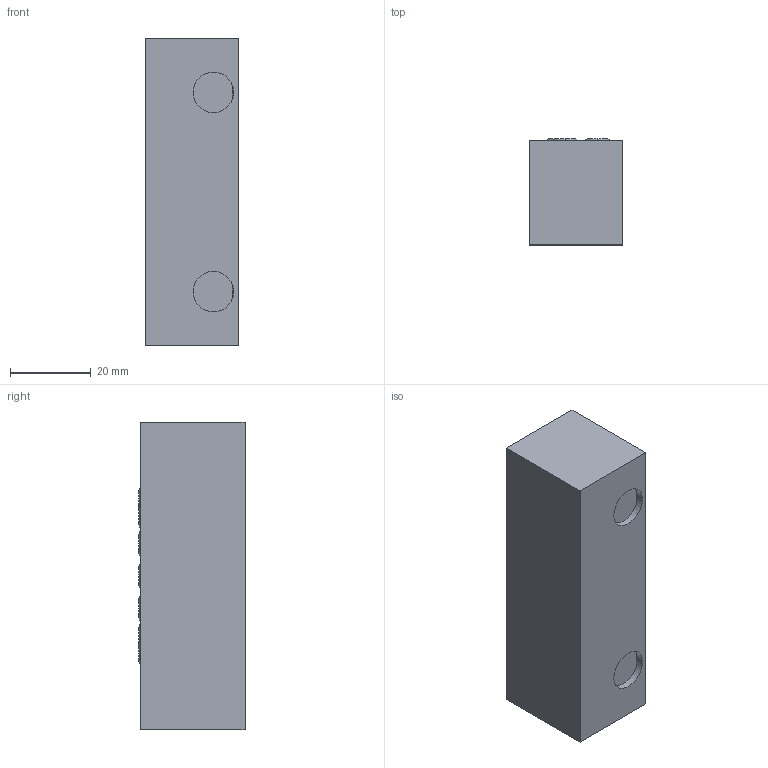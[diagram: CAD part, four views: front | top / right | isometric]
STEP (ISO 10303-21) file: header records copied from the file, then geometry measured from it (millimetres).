
FILE_DESCRIPTION((''),'2;1');
FILE_NAME('0641514_ASM','2023-07-20T14:06:12',('pietro.masciave'),(''),'CREO PARAMETRIC BY PTC INC, 2022281','CREO PARAMETRIC BY PTC INC, 2022281','');
FILE_SCHEMA(('CONFIG_CONTROL_DESIGN'));
Length unit declared in the file: millimetre
Products named in the file (3): 0641524; 0018844; 0641514_ASM
Assembly tree (10 placements, depth 2):
  0641514_ASM
    0641524
    0018844  x9
Bounding box: 23 x 26.18 x 76 mm (x, y, z)
Volume: 44655.7 mm3; surface area: 9851 mm2
Topology: 10 solids, 10 shells, 116 faces, 240 edges, 148 vertices
Faces by surface type: cylinder 48, torus 36, plane 32
Entity records: 2584 total; most frequent: CARTESIAN_POINT 581, DIRECTION 442, ORIENTED_EDGE 352, AXIS2_PLACEMENT_3D 193, EDGE_CURVE 176, VERTEX_POINT 116, EDGE_LOOP 106, CIRCLE 96
